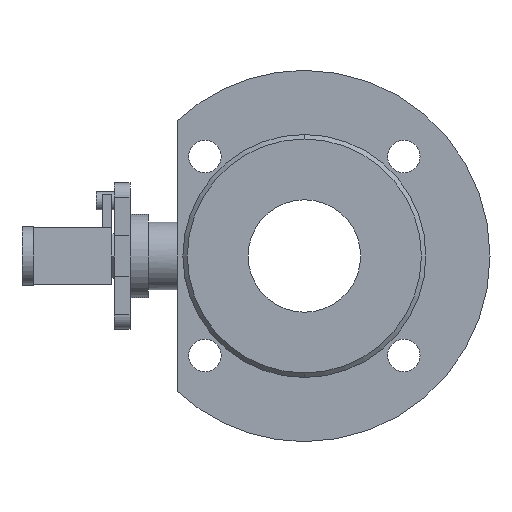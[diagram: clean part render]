
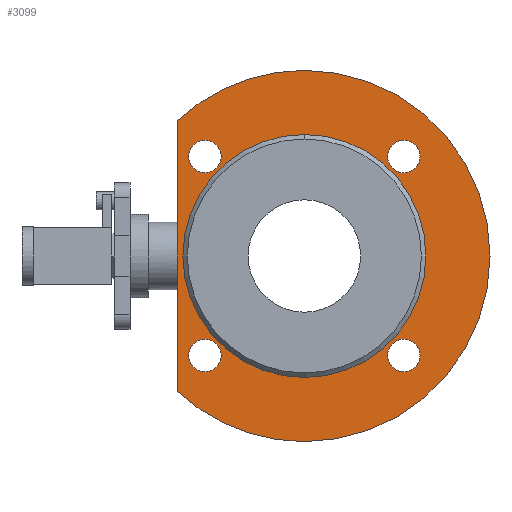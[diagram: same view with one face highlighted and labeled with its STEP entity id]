
A CAD part, left-side view. The second image highlights one B-rep face of the part: STEP entity #3099.
In plain terms, the highlighted planar face has unit normal (-1, 0, 0).
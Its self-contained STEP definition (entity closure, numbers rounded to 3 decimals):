
#45 = CARTESIAN_POINT ( 'NONE',  ( -37., -44.194, 44.194 ) ) ;
#65 = PLANE ( 'NONE',  #1140 ) ;
#80 = EDGE_CURVE ( 'NONE', #1196, #4000, #2434, .T. ) ;
#105 = DIRECTION ( 'NONE',  ( 0., 0., 1. ) ) ;
#107 = ORIENTED_EDGE ( 'NONE', *, *, #3856, .T. ) ;
#161 = AXIS2_PLACEMENT_3D ( 'NONE', #3218, #1358, #3528 ) ;
#167 = DIRECTION ( 'NONE',  ( -1., 0., 0. ) ) ;
#186 = ORIENTED_EDGE ( 'NONE', *, *, #2009, .F. ) ;
#197 = AXIS2_PLACEMENT_3D ( 'NONE', #1451, #3622, #1757 ) ;
#204 = DIRECTION ( 'NONE',  ( -1., 0., 0. ) ) ;
#244 = EDGE_LOOP ( 'NONE', ( #612, #107, #2555, #1956 ) ) ;
#258 = CARTESIAN_POINT ( 'NONE',  ( -37., 0., 0. ) ) ;
#301 = CIRCLE ( 'NONE', #2071, 82.5 ) ;
#303 = ORIENTED_EDGE ( 'NONE', *, *, #1199, .F. ) ;
#327 = EDGE_LOOP ( 'NONE', ( #2765, #186 ) ) ;
#361 = DIRECTION ( 'NONE',  ( 0., -1., 0. ) ) ;
#371 = EDGE_CURVE ( 'NONE', #4000, #1196, #3128, .T. ) ;
#375 = AXIS2_PLACEMENT_3D ( 'NONE', #1130, #3304, #1449 ) ;
#385 = FACE_BOUND ( 'NONE', #3116, .T. ) ;
#414 = CIRCLE ( 'NONE', #2799, 7.2 ) ;
#454 = CARTESIAN_POINT ( 'NONE',  ( -37., -44.194, 44.194 ) ) ;
#486 = FACE_BOUND ( 'NONE', #2715, .T. ) ;
#555 = DIRECTION ( 'NONE',  ( 0., 0., 1. ) ) ;
#556 = ORIENTED_EDGE ( 'NONE', *, *, #1096, .F. ) ;
#576 = FACE_BOUND ( 'NONE', #327, .T. ) ;
#587 = CARTESIAN_POINT ( 'NONE',  ( -37., 0., 82.5 ) ) ;
#612 = ORIENTED_EDGE ( 'NONE', *, *, #1886, .T. ) ;
#627 = CIRCLE ( 'NONE', #4017, 54. ) ;
#686 = AXIS2_PLACEMENT_3D ( 'NONE', #3628, #3895, #2017 ) ;
#705 = CARTESIAN_POINT ( 'NONE',  ( -37., 56.5, 60.117 ) ) ;
#756 = DIRECTION ( 'NONE',  ( 0., -1., 0. ) ) ;
#806 = CARTESIAN_POINT ( 'NONE',  ( -37., 44.194, 51.394 ) ) ;
#860 = CARTESIAN_POINT ( 'NONE',  ( -37., 44.194, 36.994 ) ) ;
#862 = CARTESIAN_POINT ( 'NONE',  ( -37., 0., 54. ) ) ;
#869 = AXIS2_PLACEMENT_3D ( 'NONE', #1343, #3508, #1655 ) ;
#989 = DIRECTION ( 'NONE',  ( -1., 0., 0. ) ) ;
#1096 = EDGE_CURVE ( 'NONE', #1868, #1243, #3169, .T. ) ;
#1130 = CARTESIAN_POINT ( 'NONE',  ( -37., 44.194, -44.194 ) ) ;
#1140 = AXIS2_PLACEMENT_3D ( 'NONE', #2213, #3468, #2530 ) ;
#1147 = EDGE_CURVE ( 'NONE', #2478, #1335, #3909, .T. ) ;
#1180 = CARTESIAN_POINT ( 'NONE',  ( -37., -44.194, -51.394 ) ) ;
#1196 = VERTEX_POINT ( 'NONE', #806 ) ;
#1199 = EDGE_CURVE ( 'NONE', #2722, #3780, #1227, .T. ) ;
#1227 = CIRCLE ( 'NONE', #375, 7.2 ) ;
#1243 = VERTEX_POINT ( 'NONE', #3631 ) ;
#1245 = AXIS2_PLACEMENT_3D ( 'NONE', #2852, #989, #3168 ) ;
#1307 = VERTEX_POINT ( 'NONE', #587 ) ;
#1335 = VERTEX_POINT ( 'NONE', #3708 ) ;
#1343 = CARTESIAN_POINT ( 'NONE',  ( -37., 0., 0. ) ) ;
#1358 = DIRECTION ( 'NONE',  ( -1., 0., 0. ) ) ;
#1397 = EDGE_CURVE ( 'NONE', #2890, #3252, #1470, .T. ) ;
#1425 = CARTESIAN_POINT ( 'NONE',  ( -37., 56.5, 0. ) ) ;
#1449 = DIRECTION ( 'NONE',  ( 0., 1., 0. ) ) ;
#1451 = CARTESIAN_POINT ( 'NONE',  ( -37., 44.194, 44.194 ) ) ;
#1470 = CIRCLE ( 'NONE', #3287, 7.2 ) ;
#1655 = DIRECTION ( 'NONE',  ( 0., 0., 1. ) ) ;
#1751 = DIRECTION ( 'NONE',  ( -1., 0., 0. ) ) ;
#1757 = DIRECTION ( 'NONE',  ( 0., 0., 1. ) ) ;
#1794 = AXIS2_PLACEMENT_3D ( 'NONE', #258, #2396, #555 ) ;
#1815 = CIRCLE ( 'NONE', #161, 7.2 ) ;
#1839 = VERTEX_POINT ( 'NONE', #862 ) ;
#1849 = AXIS2_PLACEMENT_3D ( 'NONE', #3613, #1751, #3936 ) ;
#1868 = VERTEX_POINT ( 'NONE', #1180 ) ;
#1886 = EDGE_CURVE ( 'NONE', #1335, #3171, #301, .T. ) ;
#1948 = DIRECTION ( 'NONE',  ( -1., 0., 0. ) ) ;
#1956 = ORIENTED_EDGE ( 'NONE', *, *, #1147, .T. ) ;
#2004 = CARTESIAN_POINT ( 'NONE',  ( -37., 0., 0. ) ) ;
#2009 = EDGE_CURVE ( 'NONE', #1839, #3675, #627, .T. ) ;
#2017 = DIRECTION ( 'NONE',  ( 0., 0., 1. ) ) ;
#2020 = FACE_BOUND ( 'NONE', #2122, .T. ) ;
#2035 = CARTESIAN_POINT ( 'NONE',  ( -37., -44.194, -44.194 ) ) ;
#2048 = CIRCLE ( 'NONE', #1245, 54. ) ;
#2071 = AXIS2_PLACEMENT_3D ( 'NONE', #3829, #1948, #105 ) ;
#2096 = EDGE_CURVE ( 'NONE', #1243, #1868, #2719, .T. ) ;
#2097 = CIRCLE ( 'NONE', #1794, 82.5 ) ;
#2122 = EDGE_LOOP ( 'NONE', ( #303, #2614 ) ) ;
#2195 = DIRECTION ( 'NONE',  ( -1., 0., 0. ) ) ;
#2213 = CARTESIAN_POINT ( 'NONE',  ( -37., 82.5, 0. ) ) ;
#2302 = DIRECTION ( 'NONE',  ( 0., 0., 1. ) ) ;
#2342 = DIRECTION ( 'NONE',  ( 0., 0., -1. ) ) ;
#2396 = DIRECTION ( 'NONE',  ( -1., 0., 0. ) ) ;
#2434 = CIRCLE ( 'NONE', #686, 7.2 ) ;
#2478 = VERTEX_POINT ( 'NONE', #705 ) ;
#2484 = EDGE_CURVE ( 'NONE', #1307, #2478, #3642, .T. ) ;
#2486 = CARTESIAN_POINT ( 'NONE',  ( -37., 44.194, -36.994 ) ) ;
#2501 = AXIS2_PLACEMENT_3D ( 'NONE', #2035, #204, #2342 ) ;
#2530 = DIRECTION ( 'NONE',  ( 0., 0., -1. ) ) ;
#2555 = ORIENTED_EDGE ( 'NONE', *, *, #2484, .T. ) ;
#2604 = DIRECTION ( 'NONE',  ( -1., 0., 0. ) ) ;
#2614 = ORIENTED_EDGE ( 'NONE', *, *, #3550, .F. ) ;
#2654 = CARTESIAN_POINT ( 'NONE',  ( -37., -44.194, 36.994 ) ) ;
#2678 = DIRECTION ( 'NONE',  ( 0., 0., -1. ) ) ;
#2715 = EDGE_LOOP ( 'NONE', ( #3242, #3144 ) ) ;
#2719 = CIRCLE ( 'NONE', #1849, 7.2 ) ;
#2722 = VERTEX_POINT ( 'NONE', #2486 ) ;
#2755 = FACE_OUTER_BOUND ( 'NONE', #244, .T. ) ;
#2765 = ORIENTED_EDGE ( 'NONE', *, *, #3679, .F. ) ;
#2799 = AXIS2_PLACEMENT_3D ( 'NONE', #454, #2604, #756 ) ;
#2852 = CARTESIAN_POINT ( 'NONE',  ( -37., 0., 0. ) ) ;
#2890 = VERTEX_POINT ( 'NONE', #2654 ) ;
#2918 = CARTESIAN_POINT ( 'NONE',  ( -37., -44.194, 51.394 ) ) ;
#2974 = VECTOR ( 'NONE', #2678, 1000. ) ;
#2991 = ORIENTED_EDGE ( 'NONE', *, *, #371, .F. ) ;
#3099 = ADVANCED_FACE ( 'NONE', ( #486, #3586, #2020, #385, #576, #2755 ), #65, .F. ) ;
#3116 = EDGE_LOOP ( 'NONE', ( #3191, #2991 ) ) ;
#3128 = CIRCLE ( 'NONE', #197, 7.2 ) ;
#3144 = ORIENTED_EDGE ( 'NONE', *, *, #1397, .F. ) ;
#3158 = CARTESIAN_POINT ( 'NONE',  ( -37., 0., -54. ) ) ;
#3168 = DIRECTION ( 'NONE',  ( 0., 0., 1. ) ) ;
#3169 = CIRCLE ( 'NONE', #2501, 7.2 ) ;
#3171 = VERTEX_POINT ( 'NONE', #3845 ) ;
#3191 = ORIENTED_EDGE ( 'NONE', *, *, #80, .F. ) ;
#3218 = CARTESIAN_POINT ( 'NONE',  ( -37., 44.194, -44.194 ) ) ;
#3225 = EDGE_CURVE ( 'NONE', #3252, #2890, #414, .T. ) ;
#3242 = ORIENTED_EDGE ( 'NONE', *, *, #3225, .F. ) ;
#3252 = VERTEX_POINT ( 'NONE', #2918 ) ;
#3287 = AXIS2_PLACEMENT_3D ( 'NONE', #45, #2195, #361 ) ;
#3304 = DIRECTION ( 'NONE',  ( -1., 0., 0. ) ) ;
#3468 = DIRECTION ( 'NONE',  ( 1., 0., 0. ) ) ;
#3508 = DIRECTION ( 'NONE',  ( -1., 0., 0. ) ) ;
#3528 = DIRECTION ( 'NONE',  ( 0., 1., 0. ) ) ;
#3550 = EDGE_CURVE ( 'NONE', #3780, #2722, #1815, .T. ) ;
#3586 = FACE_BOUND ( 'NONE', #3691, .T. ) ;
#3613 = CARTESIAN_POINT ( 'NONE',  ( -37., -44.194, -44.194 ) ) ;
#3622 = DIRECTION ( 'NONE',  ( -1., 0., 0. ) ) ;
#3628 = CARTESIAN_POINT ( 'NONE',  ( -37., 44.194, 44.194 ) ) ;
#3631 = CARTESIAN_POINT ( 'NONE',  ( -37., -44.194, -36.994 ) ) ;
#3642 = CIRCLE ( 'NONE', #869, 82.5 ) ;
#3675 = VERTEX_POINT ( 'NONE', #3158 ) ;
#3679 = EDGE_CURVE ( 'NONE', #3675, #1839, #2048, .T. ) ;
#3691 = EDGE_LOOP ( 'NONE', ( #3810, #556 ) ) ;
#3708 = CARTESIAN_POINT ( 'NONE',  ( -37., 56.5, -60.117 ) ) ;
#3780 = VERTEX_POINT ( 'NONE', #3916 ) ;
#3810 = ORIENTED_EDGE ( 'NONE', *, *, #2096, .F. ) ;
#3829 = CARTESIAN_POINT ( 'NONE',  ( -37., 0., 0. ) ) ;
#3845 = CARTESIAN_POINT ( 'NONE',  ( -37., 0., -82.5 ) ) ;
#3856 = EDGE_CURVE ( 'NONE', #3171, #1307, #2097, .T. ) ;
#3895 = DIRECTION ( 'NONE',  ( -1., 0., 0. ) ) ;
#3909 = LINE ( 'NONE', #1425, #2974 ) ;
#3916 = CARTESIAN_POINT ( 'NONE',  ( -37., 44.194, -51.394 ) ) ;
#3936 = DIRECTION ( 'NONE',  ( 0., 0., -1. ) ) ;
#4000 = VERTEX_POINT ( 'NONE', #860 ) ;
#4017 = AXIS2_PLACEMENT_3D ( 'NONE', #2004, #167, #2302 ) ;
